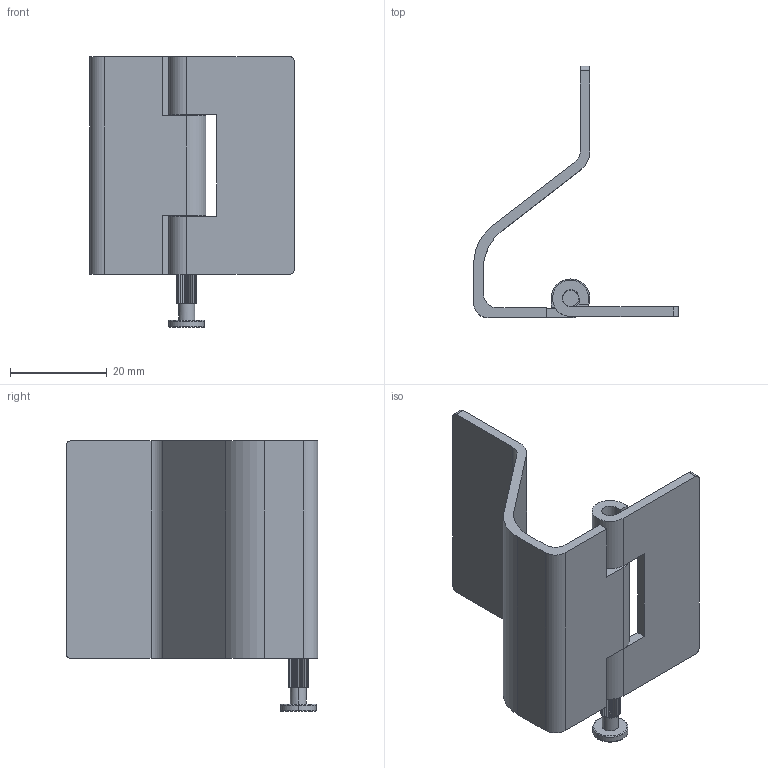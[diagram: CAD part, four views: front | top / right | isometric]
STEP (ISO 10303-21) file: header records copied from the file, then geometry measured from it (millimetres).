
FILE_DESCRIPTION (( 'STEP AP203' ), '1' );
FILE_NAME ('XG02-102-1.STEP', '2023-12-22T06:08:28', ( '' ), ( '' ), 'SwSTEP 2.0', 'SolidWorks 2020', '' );
FILE_SCHEMA (( 'CONFIG_CONTROL_DESIGN' ));
Length unit declared in the file: millimetre
Products named in the file (3): XG02-102-1; 錨璃12; 21
Assembly tree (2 placements, depth 2):
  XG02-102-1
    錨璃12
    21
Bounding box: 42.27 x 52 x 56 mm (x, y, z)
Volume: 10553.4 mm3; surface area: 11571.6 mm2
Topology: 3 solids, 3 shells, 166 faces, 422 edges, 264 vertices
Faces by surface type: plane 88, bspline 50, cylinder 24, torus 4
Entity records: 5416 total; most frequent: CARTESIAN_POINT 1513, ORIENTED_EDGE 844, DIRECTION 693, EDGE_CURVE 422, VERTEX_POINT 264, AXIS2_PLACEMENT_3D 252, LINE 189, VECTOR 189
